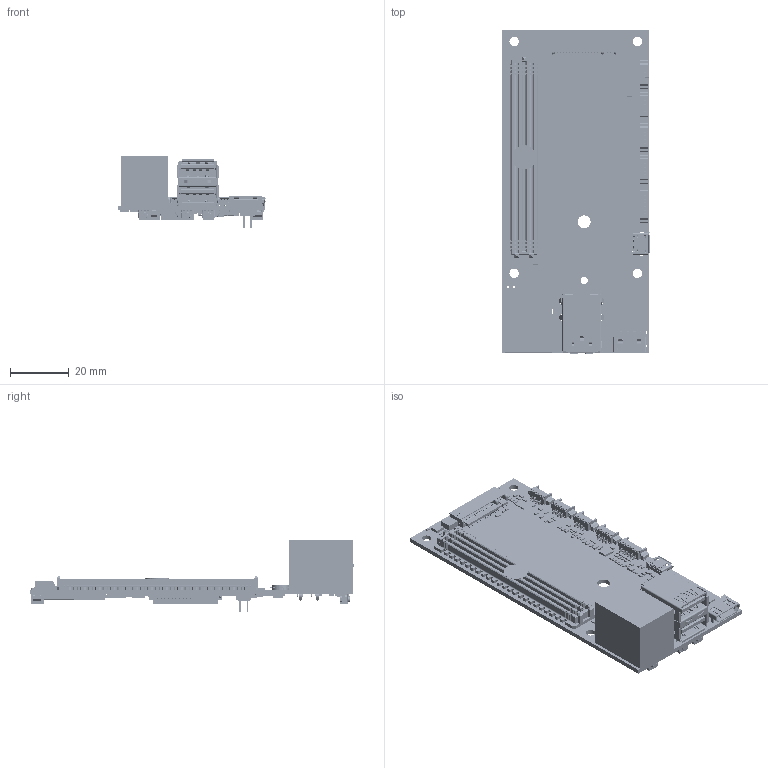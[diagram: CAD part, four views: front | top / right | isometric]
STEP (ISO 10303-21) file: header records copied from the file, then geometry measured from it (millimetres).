
FILE_DESCRIPTION(('Open CASCADE Model'),'2;1');
FILE_NAME('Open CASCADE Shape Model','2019-10-02T20:16:03',('Author'),( 'Open CASCADE'),'Open CASCADE STEP processor 6.2','Open CASCADE 6.2' ,'Unknown');
FILE_SCHEMA(('AUTOMOTIVE_DESIGN { 1 0 10303 214 1 1 1 1 }'));
Length unit declared in the file: millimetre
Products named in the file (694): PCB; Board; R187; 786471344; Extruded; 786468272; R96; C298; 786471856; 786471728; C296; U25; 523422352; R170; R159; R157; R156; 786471216; 786471600; U90; 835497552; C99; 786472880; 786473008; J15; 693071010811; 693071010811_COULISSEAU; 693071010811_CONTACT; 693071010811_AGRAPHE; 693071010811_RESSORT; 693071010811_CACHE; 693071010811_LAME; 693071010811_MASSE; J17; 952696112; Sphere; 952697432; Cylinder; 1879463584; 1879463712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
Assembly tree (2458 placements, depth 4):
  PCB
    Board
    R187
      786471344
        Extruded
      786468272  x2
        Extruded
    R96
      786471344
        Extruded
      786468272  x2
        Extruded
    C298
      786471856  x2
        Extruded
      786471728
        Extruded
    C296
      786471856  x2
        Extruded
      786471728
        Extruded
    U25
      523422352
        Extruded
    R170
      786471344
        Extruded
      786468272  x2
        Extruded
    R159
      786471344
        Extruded
      786468272  x2
        Extruded
    R157
      786471344
        Extruded
      786468272  x2
        Extruded
    R156
      786471216
        Extruded
      786471600  x2
        Extruded
    U90
      835497552
        Extruded
    C99
      786472880  x2
        Extruded
      786473008
        Extruded
    J15
      693071010811
        693071010811
        693071010811_COULISSEAU
        693071010811_CONTACT  x8
        693071010811_AGRAPHE
        693071010811_RESSORT
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Bounding box: 50.15 x 110.6 x 24.57 mm (x, y, z)
Volume: 20325 mm3; surface area: 36466 mm2
Topology: 1925 solids, 2558 shells, 23384 faces, 58930 edges, 40021 vertices
Faces by surface type: plane 20534, cylinder 2606, bspline 204, torus 19, cone 14, extrusion 4, revolution 2, sphere 1
Full cylindrical faces by diameter (mm): 0.3 x4, 0.46 x6, 0.5 x15, 0.7 x18, 0.75 x2, 0.8 x3, 0.9 x19, 0.94 x2, 0.95 x2, 1 x11, 1.019 x4, 1.1 x1, 1.27 x2, 1.6 x1, 2 x3, 2.1 x3, 2.3 x4, 2.459 x1, 2.5 x3, 3 x2, 3.2 x4, 4.2 x1, 4.4 x2, 6 x1
Entity records: 794055 total; most frequent: CARTESIAN_POINT 191237, DIRECTION 103746, VECTOR 68748, LINE 68744, ORIENTED_EDGE 56076, PCURVE 56076, DEFINITIONAL_REPRESENTATION 56076, EDGE_CURVE 29832
